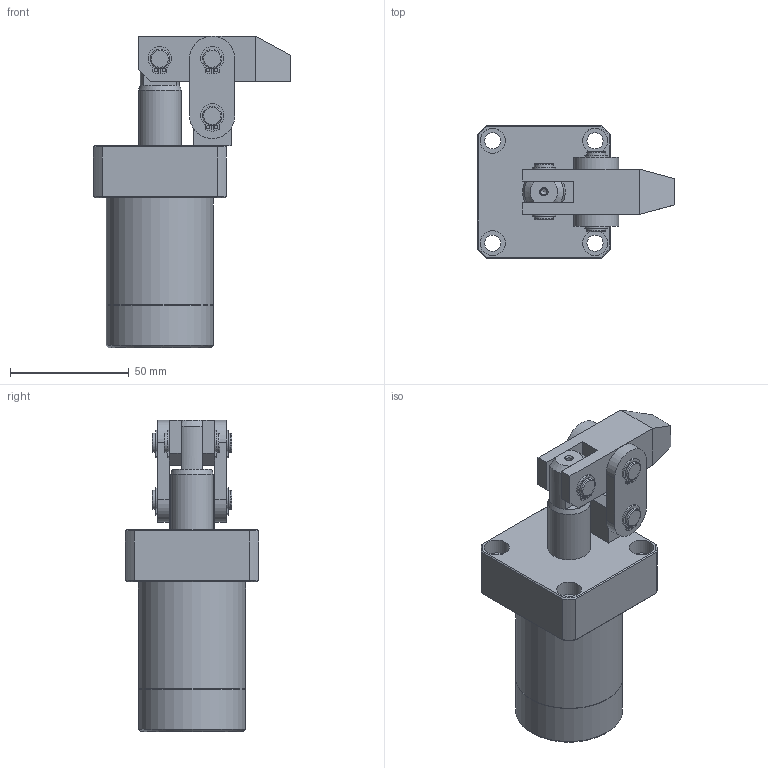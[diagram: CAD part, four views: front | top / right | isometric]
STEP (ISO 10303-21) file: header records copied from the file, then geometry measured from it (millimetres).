
FILE_DESCRIPTION(/* description */ ('Unknown'),/* implementation_level */ '2;1');
FILE_NAME(/* name */ 'HLB-FA25-A',/* time_stamp */ '2025-05-13T02:28:56+08:00',/* author */ ('Unknown'),/* organization */ ('Unknown'),/* preprocessor_version */ 'ST-DEVELOPER v16.7',/* originating_system */ 'DEX',/* authorisation */ $);
FILE_SCHEMA (('AUTOMOTIVE_DESIGN {1 0 10303 214 3 1 1}'));
Length unit declared in the file: millimetre
Products named in the file (8): HLB-FA25-A; HLB-FA25-CYLINDER; HLB-25-墊; HLB-25-A; HLB-2502-AXLE CENTRE; HLB-25-PINµu; HLB-25-PINªø; HLB-25-C扣5
Assembly tree (14 placements, depth 2):
  HLB-FA25-A
    HLB-FA25-CYLINDER
    HLB-25-墊  x2
    HLB-25-A
    HLB-2502-AXLE CENTRE
    HLB-25-PINµu
    HLB-25-PINªø  x2
    HLB-25-C扣5  x6
Bounding box: 83 x 56 x 131 mm (x, y, z)
Volume: 190823.7 mm3; surface area: 48159.7 mm2
Topology: 14 solids, 14 shells, 254 faces, 591 edges, 386 vertices
Faces by surface type: plane 114, cylinder 111, cone 21, torus 8
Full cylindrical faces by diameter (mm): 1.4 x12, 2.6 x1, 6.8 x4, 7.5 x7, 8 x17, 10.5 x4, 12.301 x2, 18 x2, 25 x2, 45 x2
Entity records: 4611 total; most frequent: CARTESIAN_POINT 716, DIRECTION 713, ORIENTED_EDGE 544, AXIS2_PLACEMENT_3D 297, EDGE_CURVE 272, FACE_BOUND 250, EDGE_LOOP 249, VERTEX_POINT 204
